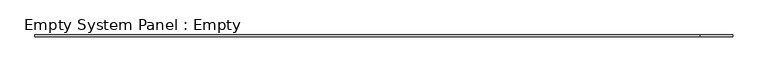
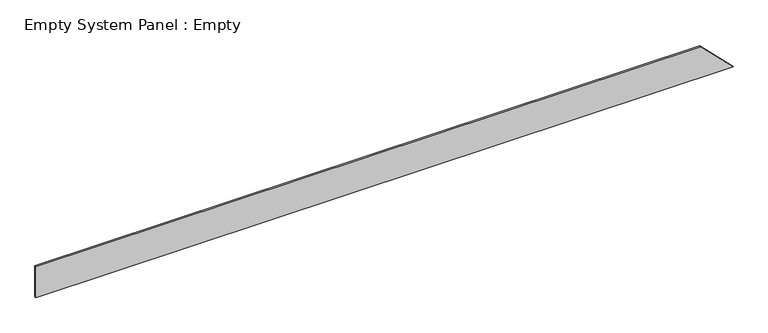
"""IFC4 building model written with IfcOpenShell, lengths in millimetres: plate geometry, Empty System Panel : Empty."""

from ifc_helpers import new_model, si_unit, frame, origin, place, context, project, spatial, polyline, outline, extrude, source, transform, mapped, element, save


def empty_system_panel_empty_60bd64a1(model_context):
    return source(origin(), model_context, "Body", "SweptSolid", [
        extrude(outline(polyline([(0.0, -19708.5546063), (0.0, 19708.5546063), (1843.8364056, 17885.1177561), (1843.8364056, -19708.5546063), (0.0, -19708.5546063)])), frame((0.0, -50.0, 0.0), z_axis=(0.0, 1.0, 0.0), x_axis=(0.0, 0.0, 1.0)), (0.0, 0.0, 1.0), 100.0),
    ])


if __name__ == "__main__":
    model = new_model("IFC4")
    model_context = context("Model", 3, world=origin())
    ifc_project = project(units=[si_unit("LENGTHUNIT", "METRE", prefix="MILLI")], contexts=[model_context])
    site = spatial("IfcSite", under=ifc_project)
    building = spatial("IfcBuilding", under=site)
    placement = place(None, origin())
    empty_system_panel_empty_shape = empty_system_panel_empty_60bd64a1(model_context)
    element("IfcPlate", 1, ObjectType="Empty System Panel : Empty", at=placement, inside=building, context=model_context, shape_type="MappedRepresentation", body=[
        mapped(empty_system_panel_empty_shape, transform((0.0, 0.0, 0.0), x_axis=(1.0, 0.0, 0.0), y_axis=(0.0, 1.0, 0.0), z_axis=(0.0, 0.0, 1.0))),
    ])
    save(model, "model.ifc")
